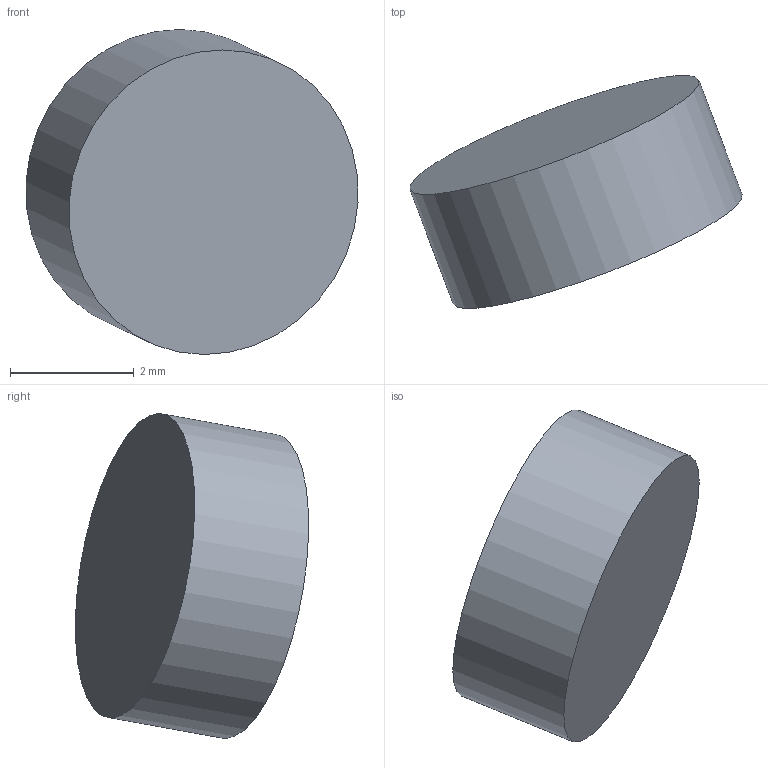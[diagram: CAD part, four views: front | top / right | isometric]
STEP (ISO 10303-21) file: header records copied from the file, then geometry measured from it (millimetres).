
FILE_DESCRIPTION(('Open CASCADE Model'),'2;1');
FILE_NAME('Open CASCADE Shape Model','2026-11-23T18:10:00',('Author'),( 'Open CASCADE'),'Open CASCADE STEP processor 8.0','build123d', 'Unknown');
FILE_SCHEMA(('AUTOMOTIVE_DESIGN { 1 0 10303 214 1 1 1 1 }'));
Length unit declared in the file: millimetre
Products named in the file (2): =>[0:1:1:2]; SOLID
Assembly tree (1 placements, depth 2):
  =>[0:1:1:2]
    SOLID
Bounding box: 5.37 x 3.77 x 5.26 mm (x, y, z)
Volume: 39.3 mm3; surface area: 70.7 mm2
Topology: 1 solids, 1 shells, 3 faces, 3 edges, 2 vertices
Faces by surface type: plane 2, cylinder 1
Full cylindrical faces by diameter (mm): 5 x1
Entity records: 132 total; most frequent: CARTESIAN_POINT 28, DIRECTION 19, AXIS2_PLACEMENT_3D 7, ORIENTED_EDGE 6, PCURVE 6, DEFINITIONAL_REPRESENTATION 6, LINE 5, VECTOR 5
